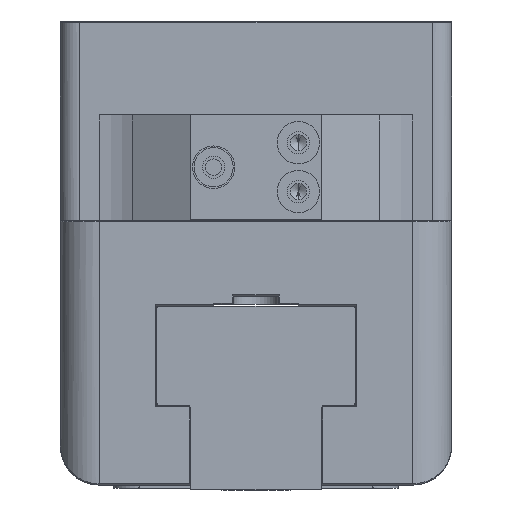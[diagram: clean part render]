
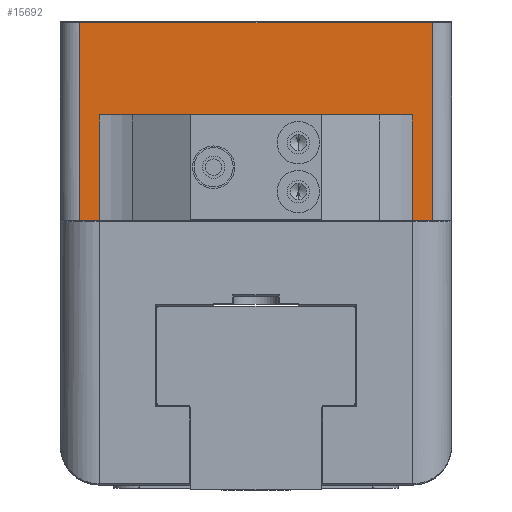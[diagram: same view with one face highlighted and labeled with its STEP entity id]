
A CAD part, left-side view. The second image highlights one B-rep face of the part: STEP entity #15692.
In plain terms, the highlighted planar face has unit normal (-1, 0, 0).
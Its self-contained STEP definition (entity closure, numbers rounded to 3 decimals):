
#77 = CARTESIAN_POINT ( 'NONE',  ( -70., 27., 70.9 ) ) ;
#153 = VECTOR ( 'NONE', #6719, 1000. ) ;
#218 = EDGE_CURVE ( 'NONE', #2773, #8248, #1111, .T. ) ;
#445 = DIRECTION ( 'NONE',  ( 0., 0., -1. ) ) ;
#911 = EDGE_LOOP ( 'NONE', ( #10228, #10309, #14853, #14929, #1341, #8220, #14341, #14471 ) ) ;
#1111 = LINE ( 'NONE', #10701, #5650 ) ;
#1202 = FACE_OUTER_BOUND ( 'NONE', #911, .T. ) ;
#1238 = CARTESIAN_POINT ( 'NONE',  ( -70., -30., 40.5 ) ) ;
#1316 = DIRECTION ( 'NONE',  ( 0., -1., 0. ) ) ;
#1341 = ORIENTED_EDGE ( 'NONE', *, *, #11066, .T. ) ;
#1406 = VERTEX_POINT ( 'NONE', #10568 ) ;
#1872 = CARTESIAN_POINT ( 'NONE',  ( -70., 23.938, 40.5 ) ) ;
#1997 = LINE ( 'NONE', #7064, #7912 ) ;
#2118 = LINE ( 'NONE', #1872, #8697 ) ;
#2746 = CARTESIAN_POINT ( 'NONE',  ( -70., -23.938, 40.5 ) ) ;
#2773 = VERTEX_POINT ( 'NONE', #10076 ) ;
#2807 = VECTOR ( 'NONE', #6210, 1000. ) ;
#2886 = LINE ( 'NONE', #1238, #11842 ) ;
#3516 = LINE ( 'NONE', #13487, #2807 ) ;
#3894 = PLANE ( 'NONE',  #4580 ) ;
#4061 = CARTESIAN_POINT ( 'NONE',  ( -70., -27., 40.5 ) ) ;
#4103 = VECTOR ( 'NONE', #11639, 1000. ) ;
#4106 = LINE ( 'NONE', #11472, #4103 ) ;
#4336 = VERTEX_POINT ( 'NONE', #8307 ) ;
#4580 = AXIS2_PLACEMENT_3D ( 'NONE', #9974, #12574, #13800 ) ;
#4754 = CARTESIAN_POINT ( 'NONE',  ( -70., 23.938, 56.75 ) ) ;
#5144 = VERTEX_POINT ( 'NONE', #11246 ) ;
#5650 = VECTOR ( 'NONE', #15022, 1000. ) ;
#5849 = DIRECTION ( 'NONE',  ( 0., 0., -1. ) ) ;
#6210 = DIRECTION ( 'NONE',  ( 0., -1., 0. ) ) ;
#6592 = VERTEX_POINT ( 'NONE', #13079 ) ;
#6719 = DIRECTION ( 'NONE',  ( 0., 0., 1. ) ) ;
#6873 = DIRECTION ( 'NONE',  ( 0., 0., 1. ) ) ;
#7064 = CARTESIAN_POINT ( 'NONE',  ( -70., 27., 40.5 ) ) ;
#7752 = EDGE_CURVE ( 'NONE', #1406, #10804, #2886, .T. ) ;
#7912 = VECTOR ( 'NONE', #5849, 1000. ) ;
#8220 = ORIENTED_EDGE ( 'NONE', *, *, #13849, .T. ) ;
#8248 = VERTEX_POINT ( 'NONE', #4754 ) ;
#8307 = CARTESIAN_POINT ( 'NONE',  ( -70., 23.938, 40.5 ) ) ;
#8697 = VECTOR ( 'NONE', #6873, 1000. ) ;
#9431 = EDGE_CURVE ( 'NONE', #10804, #5144, #15437, .T. ) ;
#9974 = CARTESIAN_POINT ( 'NONE',  ( -70., -30., 40.5 ) ) ;
#10076 = CARTESIAN_POINT ( 'NONE',  ( -70., -23.938, 56.75 ) ) ;
#10228 = ORIENTED_EDGE ( 'NONE', *, *, #218, .F. ) ;
#10309 = ORIENTED_EDGE ( 'NONE', *, *, #13571, .T. ) ;
#10454 = VERTEX_POINT ( 'NONE', #77 ) ;
#10568 = CARTESIAN_POINT ( 'NONE',  ( -70., -23.938, 40.5 ) ) ;
#10701 = CARTESIAN_POINT ( 'NONE',  ( -70., 21.258, 56.75 ) ) ;
#10758 = EDGE_CURVE ( 'NONE', #6592, #4336, #3516, .T. ) ;
#10804 = VERTEX_POINT ( 'NONE', #4061 ) ;
#11066 = EDGE_CURVE ( 'NONE', #5144, #10454, #4106, .T. ) ;
#11246 = CARTESIAN_POINT ( 'NONE',  ( -70., -27., 70.9 ) ) ;
#11472 = CARTESIAN_POINT ( 'NONE',  ( -70., 27., 70.9 ) ) ;
#11639 = DIRECTION ( 'NONE',  ( 0., 1., 0. ) ) ;
#11842 = VECTOR ( 'NONE', #1316, 1000. ) ;
#12311 = EDGE_CURVE ( 'NONE', #4336, #8248, #2118, .T. ) ;
#12574 = DIRECTION ( 'NONE',  ( -1., 0., 0. ) ) ;
#12773 = CARTESIAN_POINT ( 'NONE',  ( -70., -27., 71. ) ) ;
#13079 = CARTESIAN_POINT ( 'NONE',  ( -70., 27., 40.5 ) ) ;
#13487 = CARTESIAN_POINT ( 'NONE',  ( -70., -30., 40.5 ) ) ;
#13571 = EDGE_CURVE ( 'NONE', #2773, #1406, #15081, .T. ) ;
#13800 = DIRECTION ( 'NONE',  ( 0., 0., 1. ) ) ;
#13849 = EDGE_CURVE ( 'NONE', #10454, #6592, #1997, .T. ) ;
#14341 = ORIENTED_EDGE ( 'NONE', *, *, #10758, .T. ) ;
#14471 = ORIENTED_EDGE ( 'NONE', *, *, #12311, .T. ) ;
#14853 = ORIENTED_EDGE ( 'NONE', *, *, #7752, .T. ) ;
#14929 = ORIENTED_EDGE ( 'NONE', *, *, #9431, .T. ) ;
#14969 = VECTOR ( 'NONE', #445, 1000. ) ;
#15022 = DIRECTION ( 'NONE',  ( 0., 1., 0. ) ) ;
#15081 = LINE ( 'NONE', #2746, #14969 ) ;
#15437 = LINE ( 'NONE', #12773, #153 ) ;
#15692 = ADVANCED_FACE ( 'NONE', ( #1202 ), #3894, .T. ) ;
